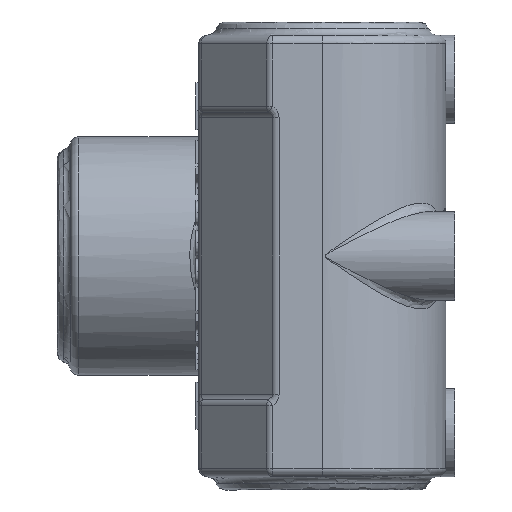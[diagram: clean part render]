
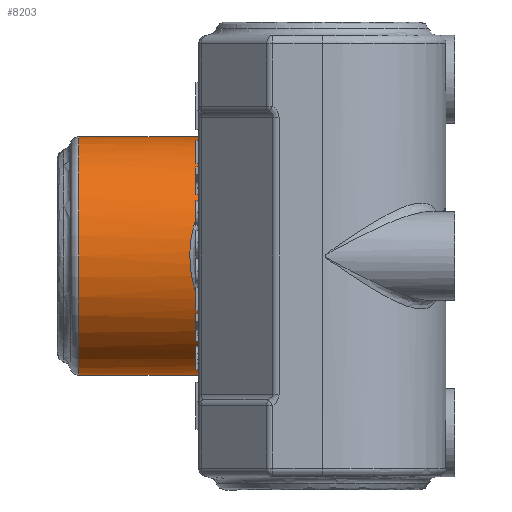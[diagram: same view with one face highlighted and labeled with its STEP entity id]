
A CAD part, left-side view. The second image highlights one B-rep face of the part: STEP entity #8203.
In plain terms, the highlighted cylindrical face has radius 21.431 mm (diameter 42.863 mm), a full revolution.
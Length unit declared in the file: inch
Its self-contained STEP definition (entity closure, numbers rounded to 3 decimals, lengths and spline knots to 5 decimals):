
#4361=CARTESIAN_POINT('',(1.15978,0.437,-0.77212));
#4362=VERTEX_POINT('',#4361);
#4370=CARTESIAN_POINT('',(1.5871,0.437,-0.83924));
#4371=VERTEX_POINT('',#4370);
#4372=CARTESIAN_POINT('',(1.5,0.437,0.0));
#4373=DIRECTION('',(0.0,-1.0,0.0));
#4374=DIRECTION('',(-0.159,0.0,-0.987));
#4375=AXIS2_PLACEMENT_3D('',#4372,#4373,#4374);
#4376=CIRCLE('',#4375,0.84375);
#4377=EDGE_CURVE('',#4362,#4371,#4376,.T.);
#4450=CARTESIAN_POINT('',(1.5871,0.437,0.83924));
#4451=VERTEX_POINT('',#4450);
#4467=CARTESIAN_POINT('',(1.15978,0.437,0.77212));
#4468=VERTEX_POINT('',#4467);
#4469=CARTESIAN_POINT('',(1.5,0.437,0.0));
#4470=DIRECTION('',(0.0,-1.0,0.0));
#4471=DIRECTION('',(-0.159,0.0,0.987));
#4472=AXIS2_PLACEMENT_3D('',#4469,#4470,#4471);
#4473=CIRCLE('',#4472,0.84375);
#4474=EDGE_CURVE('',#4451,#4468,#4473,.T.);
#4560=CARTESIAN_POINT('',(1.15978,0.437,0.77212));
#4561=CARTESIAN_POINT('',(1.08353,0.50541,0.73852));
#4562=CARTESIAN_POINT('',(0.94084,0.64519,0.64912));
#4563=CARTESIAN_POINT('',(0.76417,0.8251,0.44415));
#4564=CARTESIAN_POINT('',(0.65145,0.94199,0.1618));
#4565=CARTESIAN_POINT('',(0.65209,0.94132,-0.16329));
#4566=CARTESIAN_POINT('',(0.76482,0.82441,-0.44539));
#4567=CARTESIAN_POINT('',(0.94145,0.64459,-0.64937));
#4568=CARTESIAN_POINT('',(1.08343,0.5055,-0.73847));
#4569=CARTESIAN_POINT('',(1.15978,0.437,-0.77212));
#4570=B_SPLINE_CURVE_WITH_KNOTS('',3,(#4560,#4561,#4562,#4563,#4564,#4565,#4566,#4567,#4568,#4569),.UNSPECIFIED.,.F.,.U.,(4,1,1,1,1,1,1,4),(13.34471,14.19951,15.0543,15.90909,16.76388,17.61868,18.47347,19.32826),.UNSPECIFIED.);
#4571=EDGE_CURVE('',#4468,#4362,#4570,.T.);
#4773=CARTESIAN_POINT('',(1.5871,0.25754,0.83924));
#4774=VERTEX_POINT('',#4773);
#4782=CARTESIAN_POINT('',(1.5871,0.25754,0.83924));
#4783=DIRECTION('',(0.0,1.0,0.0));
#4784=VECTOR('',#4783,0.17946);
#4785=LINE('',#4782,#4784);
#4786=EDGE_CURVE('',#4774,#4451,#4785,.T.);
#4830=CARTESIAN_POINT('',(1.5871,0.25754,-0.83924));
#4831=VERTEX_POINT('',#4830);
#4832=CARTESIAN_POINT('',(1.5871,0.437,-0.83924));
#4833=DIRECTION('',(0.0,-1.0,0.0));
#4834=VECTOR('',#4833,0.17946);
#4835=LINE('',#4832,#4834);
#4836=EDGE_CURVE('',#4371,#4831,#4835,.T.);
#8050=CARTESIAN_POINT('',(1.5871,0.25754,-0.83924));
#8051=CARTESIAN_POINT('',(1.61858,0.26981,-0.83598));
#8052=CARTESIAN_POINT('',(1.67755,0.30384,-0.82633));
#8053=CARTESIAN_POINT('',(1.7845,0.38543,-0.79761));
#8054=CARTESIAN_POINT('',(1.95586,0.5416,-0.72365));
#8055=CARTESIAN_POINT('',(2.12781,0.71496,-0.5843));
#8056=CARTESIAN_POINT('',(2.25978,0.84999,-0.38269));
#8057=CARTESIAN_POINT('',(2.31965,0.91202,-0.22172));
#8058=CARTESIAN_POINT('',(2.3519,0.94544,-0.02356));
#8059=CARTESIAN_POINT('',(2.33321,0.92608,0.20413));
#8060=CARTESIAN_POINT('',(2.24939,0.83926,0.40214));
#8061=CARTESIAN_POINT('',(2.11363,0.70061,0.5956));
#8062=CARTESIAN_POINT('',(1.95596,0.5418,0.7236));
#8063=CARTESIAN_POINT('',(1.78504,0.38589,0.7974));
#8064=CARTESIAN_POINT('',(1.67766,0.30389,0.82633));
#8065=CARTESIAN_POINT('',(1.61844,0.26976,0.83599));
#8066=CARTESIAN_POINT('',(1.5871,0.25754,0.83924));
#8067=B_SPLINE_CURVE_WITH_KNOTS('',3,(#8050,#8051,#8052,#8053,#8054,#8055,#8056,#8057,#8058,#8059,#8060,#8061,#8062,#8063,#8064,#8065,#8066),.UNSPECIFIED.,.F.,.U.,(4,1,1,1,1,1,1,1,1,1,1,1,1,1,4),(12.48959,12.76376,13.03794,13.5863,14.68301,15.23137,15.77973,16.1453,16.87644,17.60758,17.97315,19.06986,19.61822,19.8924,20.16658),.UNSPECIFIED.);
#8068=EDGE_CURVE('',#4831,#4774,#8067,.T.);
#8179=CARTESIAN_POINT('',(1.5,0.0,0.0));
#8180=DIRECTION('',(0.0,1.0,0.0));
#8181=DIRECTION('',(1.0,0.0,0.0));
#8182=AXIS2_PLACEMENT_3D('',#8179,#8180,#8181);
#8183=CYLINDRICAL_SURFACE('',#8182,0.84375);
#8184=ORIENTED_EDGE('',*,*,#4571,.F.);
#8185=ORIENTED_EDGE('',*,*,#4474,.F.);
#8186=ORIENTED_EDGE('',*,*,#4786,.F.);
#8187=ORIENTED_EDGE('',*,*,#8068,.F.);
#8188=ORIENTED_EDGE('',*,*,#4836,.F.);
#8189=ORIENTED_EDGE('',*,*,#4377,.F.);
#8190=EDGE_LOOP('',(#8184,#8185,#8186,#8187,#8188,#8189));
#8191=FACE_OUTER_BOUND('',#8190,.T.);
#8192=CARTESIAN_POINT('',(2.34375,1.72275,0.));
#8193=VERTEX_POINT('',#8192);
#8194=CARTESIAN_POINT('',(1.5,1.72275,0.0));
#8195=DIRECTION('',(0.0,1.0,0.0));
#8196=DIRECTION('',(-1.0,0.0,0.0));
#8197=AXIS2_PLACEMENT_3D('',#8194,#8195,#8196);
#8198=CIRCLE('',#8197,0.84375);
#8199=EDGE_CURVE('',#8193,#8193,#8198,.T.);
#8200=ORIENTED_EDGE('',*,*,#8199,.F.);
#8201=EDGE_LOOP('',(#8200));
#8202=FACE_BOUND('',#8201,.T.);
#8203=ADVANCED_FACE('',(#8191,#8202),#8183,.T.);
